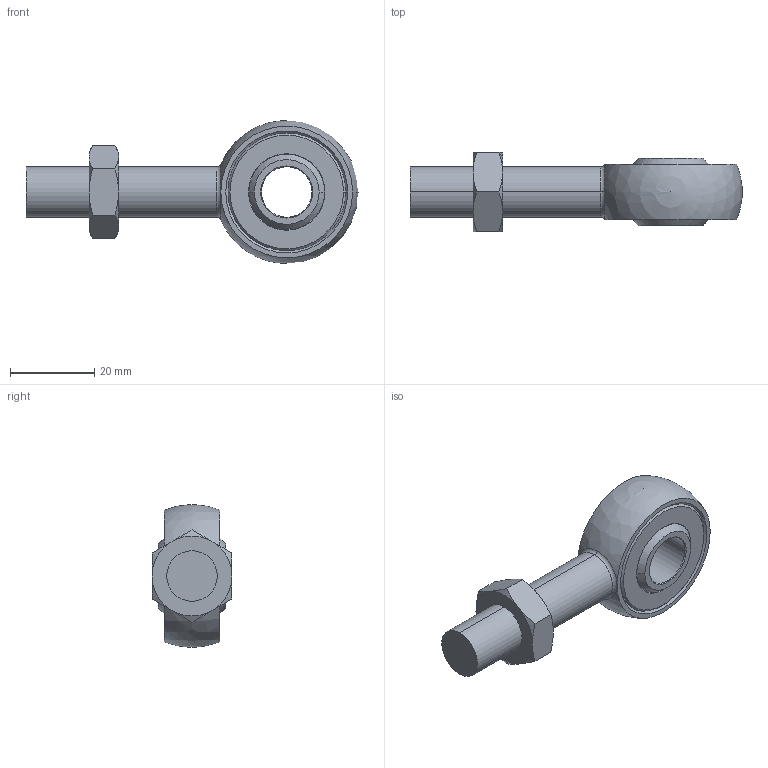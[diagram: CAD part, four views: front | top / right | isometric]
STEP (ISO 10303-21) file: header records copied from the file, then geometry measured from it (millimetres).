
FILE_DESCRIPTION (( 'STEP AP203' ), '1' );
FILE_NAME ('hrt-12e_set.STEP', '2018-06-06T09:32:11', ( '' ), ( '' ), 'SwSTEP 2.0', 'SolidWorks 2014', '' );
FILE_SCHEMA (( 'CONFIG_CONTROL_DESIGN' ));
Length unit declared in the file: millimetre
Products named in the file (3): hrt-e12; M12_3_nut; hrt-12e_set
Assembly tree (2 placements, depth 2):
  hrt-12e_set
    hrt-e12
    M12_3_nut
Bounding box: 78.95 x 19 x 34 mm (x, y, z)
Volume: 16702.4 mm3; surface area: 6292.3 mm2
Topology: 2 solids, 2 shells, 58 faces, 127 edges, 75 vertices
Faces by surface type: cone 29, plane 15, cylinder 6, sphere 6, torus 2
Entity records: 1946 total; most frequent: CARTESIAN_POINT 379, DIRECTION 295, ORIENTED_EDGE 246, AXIS2_PLACEMENT_3D 133, EDGE_CURVE 123, VERTEX_POINT 73, CIRCLE 70, EDGE_LOOP 66
